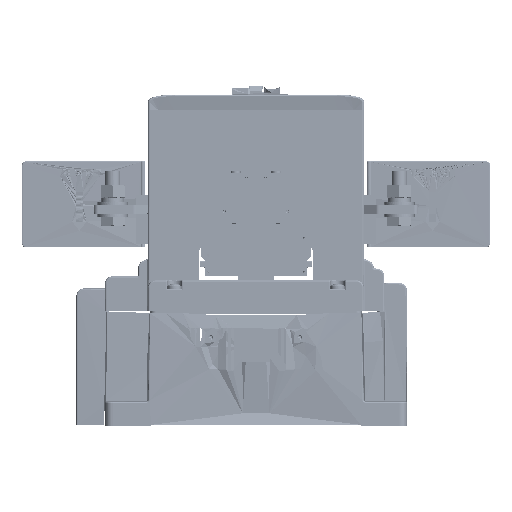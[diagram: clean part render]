
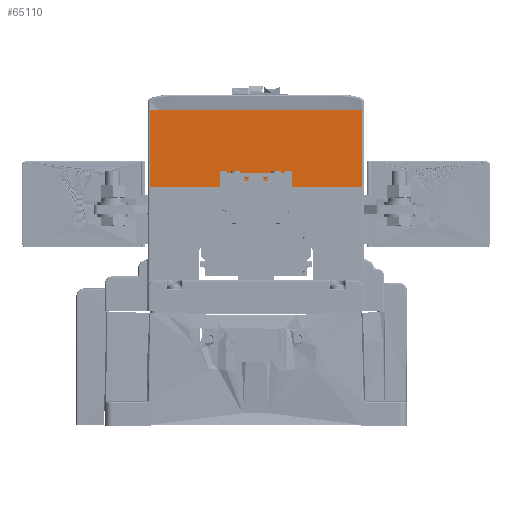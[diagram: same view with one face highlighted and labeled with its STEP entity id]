
A CAD part, left-side view. The second image highlights one B-rep face of the part: STEP entity #65110.
In plain terms, the highlighted planar face has unit normal (-1, 0, 0).
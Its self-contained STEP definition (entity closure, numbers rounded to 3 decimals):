
#3574 = VERTEX_POINT ( 'NONE', #117553 ) ;
#6158 = CARTESIAN_POINT ( 'NONE',  ( -70., 116.5, 70.5 ) ) ;
#27223 = CARTESIAN_POINT ( 'NONE',  ( -70., 86.414, 15.851 ) ) ;
#27576 = CARTESIAN_POINT ( 'NONE',  ( -70., 86.8, -15.05 ) ) ;
#31593 = CARTESIAN_POINT ( 'NONE',  ( -70., 85.8, 16.05 ) ) ;
#35147 = CARTESIAN_POINT ( 'NONE',  ( -70., 133.5, -70.5 ) ) ;
#36989 = CARTESIAN_POINT ( 'NONE',  ( -70., 99.5, 70.5 ) ) ;
#39958 = VERTEX_POINT ( 'NONE', #363059 ) ;
#41381 = CARTESIAN_POINT ( 'NONE',  ( -70., 82.5, 16.05 ) ) ;
#42462 = CARTESIAN_POINT ( 'NONE',  ( -70., 82.5, -70.5 ) ) ;
#43620 = CARTESIAN_POINT ( 'NONE',  ( -70., 82.5, -70.5 ) ) ;
#48038 = ORIENTED_EDGE ( 'NONE', *, *, #49410, .F. ) ;
#49159 = EDGE_CURVE ( 'NONE', #358535, #39958, #255023, .T. ) ;
#49410 = EDGE_CURVE ( 'NONE', #162069, #248544, #197371, .T. ) ;
#52662 = PLANE ( 'NONE',  #59983 ) ;
#53355 = B_SPLINE_CURVE_WITH_KNOTS ( 'NONE', 3,
 ( #316631, #358158, #353843, #254933 ),
 .UNSPECIFIED., .F., .F.,
 ( 4, 4 ),
 ( -1., 0. ),
 .UNSPECIFIED. ) ;
#55590 = CARTESIAN_POINT ( 'NONE',  ( -70., 86.305, -15.923 ) ) ;
#56168 = ORIENTED_EDGE ( 'NONE', *, *, #61642, .F. ) ;
#59983 = AXIS2_PLACEMENT_3D ( 'NONE', #388943, #87854, #221918 ) ;
#61642 = EDGE_CURVE ( 'NONE', #39958, #396138, #53355, .T. ) ;
#65110 = ADVANCED_FACE ( 'NONE', ( #219756 ), #52662, .F. ) ;
#86882 = ORIENTED_EDGE ( 'NONE', *, *, #228019, .F. ) ;
#87854 = DIRECTION ( 'NONE',  ( 1., 0., 0. ) ) ;
#90882 = CARTESIAN_POINT ( 'NONE',  ( -70., 86.8, 5.017 ) ) ;
#93348 = ORIENTED_EDGE ( 'NONE', *, *, #416398, .F. ) ;
#97261 = CARTESIAN_POINT ( 'NONE',  ( -70., 86.601, -15.664 ) ) ;
#97866 = EDGE_CURVE ( 'NONE', #248544, #282240, #277161, .T. ) ;
#116973 = CARTESIAN_POINT ( 'NONE',  ( -70., 82.5, 16.05 ) ) ;
#117230 = EDGE_LOOP ( 'NONE', ( #48038, #93348, #340541, #186431, #56168, #422485, #305466, #86882, #214585, #244114 ) ) ;
#117553 = CARTESIAN_POINT ( 'NONE',  ( -70., 86.8, 15.05 ) ) ;
#125943 = CARTESIAN_POINT ( 'NONE',  ( -70., 86.8, -15.05 ) ) ;
#128129 = CARTESIAN_POINT ( 'NONE',  ( -70., 86.414, -15.851 ) ) ;
#130579 = CARTESIAN_POINT ( 'NONE',  ( -70., 86.775, 15.31 ) ) ;
#135188 = B_SPLINE_CURVE_WITH_KNOTS ( 'NONE', 3,
 ( #35147, #235204, #375772, #210916 ),
 .UNSPECIFIED., .F., .F.,
 ( 4, 4 ),
 ( 0., 1. ),
 .UNSPECIFIED. ) ;
#138090 = B_SPLINE_CURVE_WITH_KNOTS ( 'NONE', 3,
 ( #116973, #385057, #150008, #253216 ),
 .UNSPECIFIED., .F., .F.,
 ( 4, 4 ),
 ( -1., 0. ),
 .UNSPECIFIED. ) ;
#138164 = CARTESIAN_POINT ( 'NONE',  ( -70., 82.5, 70.5 ) ) ;
#142179 = VERTEX_POINT ( 'NONE', #43620 ) ;
#150008 = CARTESIAN_POINT ( 'NONE',  ( -70., 84.7, 16.05 ) ) ;
#160938 = VERTEX_POINT ( 'NONE', #179402 ) ;
#162069 = VERTEX_POINT ( 'NONE', #400786 ) ;
#163577 = CARTESIAN_POINT ( 'NONE',  ( -70., 86.305, 15.923 ) ) ;
#165736 = CARTESIAN_POINT ( 'NONE',  ( -70., 85.932, 16.05 ) ) ;
#179402 = CARTESIAN_POINT ( 'NONE',  ( -70., 133.5, -70.5 ) ) ;
#186431 = ORIENTED_EDGE ( 'NONE', *, *, #432537, .F. ) ;
#191998 = CARTESIAN_POINT ( 'NONE',  ( -70., 86.8, -5.017 ) ) ;
#194429 = CARTESIAN_POINT ( 'NONE',  ( -70., 82.5, 52.35 ) ) ;
#196227 = CARTESIAN_POINT ( 'NONE',  ( -70., 86.8, -15.182 ) ) ;
#197371 = B_SPLINE_CURVE_WITH_KNOTS ( 'NONE', 3,
 ( #289505, #6158, #36989, #138164 ),
 .UNSPECIFIED., .F., .F.,
 ( 4, 4 ),
 ( 0., 1. ),
 .UNSPECIFIED. ) ;
#198678 = CARTESIAN_POINT ( 'NONE',  ( -70., 86.673, 15.555 ) ) ;
#200597 = B_SPLINE_CURVE_WITH_KNOTS ( 'NONE', 3,
 ( #217008, #262446, #429465, #351087 ),
 .UNSPECIFIED., .F., .F.,
 ( 4, 4 ),
 ( 0., 1. ),
 .UNSPECIFIED. ) ;
#210916 = CARTESIAN_POINT ( 'NONE',  ( -70., 133.5, 70.5 ) ) ;
#214585 = ORIENTED_EDGE ( 'NONE', *, *, #337825, .F. ) ;
#215993 = CARTESIAN_POINT ( 'NONE',  ( -70., 82.5, -52.35 ) ) ;
#217008 = CARTESIAN_POINT ( 'NONE',  ( -70., 82.5, -70.5 ) ) ;
#219756 = FACE_OUTER_BOUND ( 'NONE', #117230, .T. ) ;
#221918 = DIRECTION ( 'NONE',  ( 0., 1., 0. ) ) ;
#225140 = CARTESIAN_POINT ( 'NONE',  ( -70., 86.8, 15.183 ) ) ;
#228019 = EDGE_CURVE ( 'NONE', #337182, #3574, #242813, .T. ) ;
#233861 = CARTESIAN_POINT ( 'NONE',  ( -70., 82.5, 70.5 ) ) ;
#235204 = CARTESIAN_POINT ( 'NONE',  ( -70., 133.5, -23.5 ) ) ;
#242813 = B_SPLINE_CURVE_WITH_KNOTS ( 'NONE', 3,
 ( #31593, #165736, #334944, #163577, #27223, #431649, #198678, #130579, #225140, #264642 ),
 .UNSPECIFIED., .F., .F.,
 ( 4, 2, 2, 2, 4 ),
 ( -1., -0.75, -0.5, -0.25, 0. ),
 .UNSPECIFIED. ) ;
#244114 = ORIENTED_EDGE ( 'NONE', *, *, #97866, .F. ) ;
#246861 = CARTESIAN_POINT ( 'NONE',  ( -70., 82.5, -16.05 ) ) ;
#248544 = VERTEX_POINT ( 'NONE', #427288 ) ;
#253216 = CARTESIAN_POINT ( 'NONE',  ( -70., 85.8, 16.05 ) ) ;
#254933 = CARTESIAN_POINT ( 'NONE',  ( -70., 82.5, -16.05 ) ) ;
#255023 = B_SPLINE_CURVE_WITH_KNOTS ( 'NONE', 3,
 ( #125943, #196227, #429207, #293028, #97261, #128129, #55590, #398405, #262179, #321654 ),
 .UNSPECIFIED., .F., .F.,
 ( 4, 2, 2, 2, 4 ),
 ( -1., -0.75, -0.5, -0.25, 0. ),
 .UNSPECIFIED. ) ;
#257953 = CARTESIAN_POINT ( 'NONE',  ( -70., 86.8, 15.05 ) ) ;
#261027 = EDGE_CURVE ( 'NONE', #142179, #160938, #200597, .T. ) ;
#262179 = CARTESIAN_POINT ( 'NONE',  ( -70., 85.933, -16.05 ) ) ;
#262446 = CARTESIAN_POINT ( 'NONE',  ( -70., 99.5, -70.5 ) ) ;
#264642 = CARTESIAN_POINT ( 'NONE',  ( -70., 86.8, 15.05 ) ) ;
#277161 = B_SPLINE_CURVE_WITH_KNOTS ( 'NONE', 3,
 ( #233861, #194429, #299892, #297725 ),
 .UNSPECIFIED., .F., .F.,
 ( 4, 4 ),
 ( -1., 0. ),
 .UNSPECIFIED. ) ;
#282240 = VERTEX_POINT ( 'NONE', #41381 ) ;
#289505 = CARTESIAN_POINT ( 'NONE',  ( -70., 133.5, 70.5 ) ) ;
#293028 = CARTESIAN_POINT ( 'NONE',  ( -70., 86.673, -15.555 ) ) ;
#297725 = CARTESIAN_POINT ( 'NONE',  ( -70., 82.5, 16.05 ) ) ;
#299892 = CARTESIAN_POINT ( 'NONE',  ( -70., 82.5, 34.2 ) ) ;
#305466 = ORIENTED_EDGE ( 'NONE', *, *, #349241, .F. ) ;
#316631 = CARTESIAN_POINT ( 'NONE',  ( -70., 85.8, -16.05 ) ) ;
#321654 = CARTESIAN_POINT ( 'NONE',  ( -70., 85.8, -16.05 ) ) ;
#334944 = CARTESIAN_POINT ( 'NONE',  ( -70., 86.06, 16.024 ) ) ;
#336390 = CARTESIAN_POINT ( 'NONE',  ( -70., 85.8, 16.05 ) ) ;
#337182 = VERTEX_POINT ( 'NONE', #336390 ) ;
#337825 = EDGE_CURVE ( 'NONE', #282240, #337182, #138090, .T. ) ;
#340541 = ORIENTED_EDGE ( 'NONE', *, *, #261027, .F. ) ;
#343623 = CARTESIAN_POINT ( 'NONE',  ( -70., 82.5, -34.2 ) ) ;
#349241 = EDGE_CURVE ( 'NONE', #3574, #358535, #425278, .T. ) ;
#351087 = CARTESIAN_POINT ( 'NONE',  ( -70., 133.5, -70.5 ) ) ;
#353843 = CARTESIAN_POINT ( 'NONE',  ( -70., 83.6, -16.05 ) ) ;
#358158 = CARTESIAN_POINT ( 'NONE',  ( -70., 84.7, -16.05 ) ) ;
#358535 = VERTEX_POINT ( 'NONE', #27576 ) ;
#359020 = CARTESIAN_POINT ( 'NONE',  ( -70., 86.8, -15.05 ) ) ;
#363059 = CARTESIAN_POINT ( 'NONE',  ( -70., 85.8, -16.05 ) ) ;
#375772 = CARTESIAN_POINT ( 'NONE',  ( -70., 133.5, 23.5 ) ) ;
#385057 = CARTESIAN_POINT ( 'NONE',  ( -70., 83.6, 16.05 ) ) ;
#388943 = CARTESIAN_POINT ( 'NONE',  ( -70., 82.5, 0. ) ) ;
#396138 = VERTEX_POINT ( 'NONE', #397536 ) ;
#397536 = CARTESIAN_POINT ( 'NONE',  ( -70., 82.5, -16.05 ) ) ;
#398405 = CARTESIAN_POINT ( 'NONE',  ( -70., 86.06, -16.025 ) ) ;
#400786 = CARTESIAN_POINT ( 'NONE',  ( -70., 133.5, 70.5 ) ) ;
#416398 = EDGE_CURVE ( 'NONE', #160938, #162069, #135188, .T. ) ;
#422179 = B_SPLINE_CURVE_WITH_KNOTS ( 'NONE', 3,
 ( #246861, #343623, #215993, #42462 ),
 .UNSPECIFIED., .F., .F.,
 ( 4, 4 ),
 ( -1., 0. ),
 .UNSPECIFIED. ) ;
#422485 = ORIENTED_EDGE ( 'NONE', *, *, #49159, .F. ) ;
#425278 = B_SPLINE_CURVE_WITH_KNOTS ( 'NONE', 3,
 ( #257953, #90882, #191998, #359020 ),
 .UNSPECIFIED., .F., .F.,
 ( 4, 4 ),
 ( -1., 0. ),
 .UNSPECIFIED. ) ;
#427288 = CARTESIAN_POINT ( 'NONE',  ( -70., 82.5, 70.5 ) ) ;
#429207 = CARTESIAN_POINT ( 'NONE',  ( -70., 86.774, -15.31 ) ) ;
#429465 = CARTESIAN_POINT ( 'NONE',  ( -70., 116.5, -70.5 ) ) ;
#431649 = CARTESIAN_POINT ( 'NONE',  ( -70., 86.601, 15.664 ) ) ;
#432537 = EDGE_CURVE ( 'NONE', #396138, #142179, #422179, .T. ) ;
